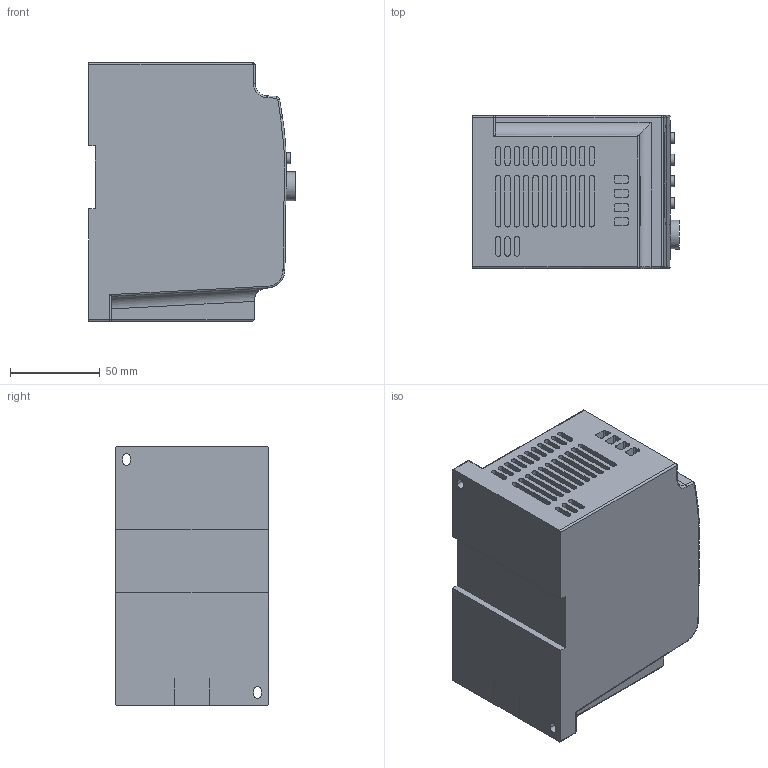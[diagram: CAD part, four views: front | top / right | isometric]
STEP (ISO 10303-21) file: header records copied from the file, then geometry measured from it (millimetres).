
FILE_DESCRIPTION(('STEP AP203'), '1');
FILE_NAME('VCI G0.4-2B', '', ('UNSPECIFIED'), ('UNSPECIFIED'), 'C3D Converter', 'C3D Toolkit', '');
FILE_SCHEMA(('CONFIG_CONTROL_DESIGN'));
Length unit declared in the file: millimetre
Bounding box: 114.82 x 85 x 144 mm (x, y, z)
Volume: 1178870.6 mm3; surface area: 111368.9 mm2
Topology: 1 solids, 1 shells, 517 faces, 1334 edges, 876 vertices
Faces by surface type: plane 289, cylinder 216, torus 4, bspline 4, sphere 2, extrusion 2
Full cylindrical faces by diameter (mm): 6 x8, 16 x1
Entity records: 23183 total; most frequent: CARTESIAN_POINT 6223, DIRECTION 2645, ORIENTED_EDGE 2642, EDGE_CURVE 1321, AXIS2_PLACEMENT_3D 897, VERTEX_POINT 876, VECTOR 851, LINE 849
